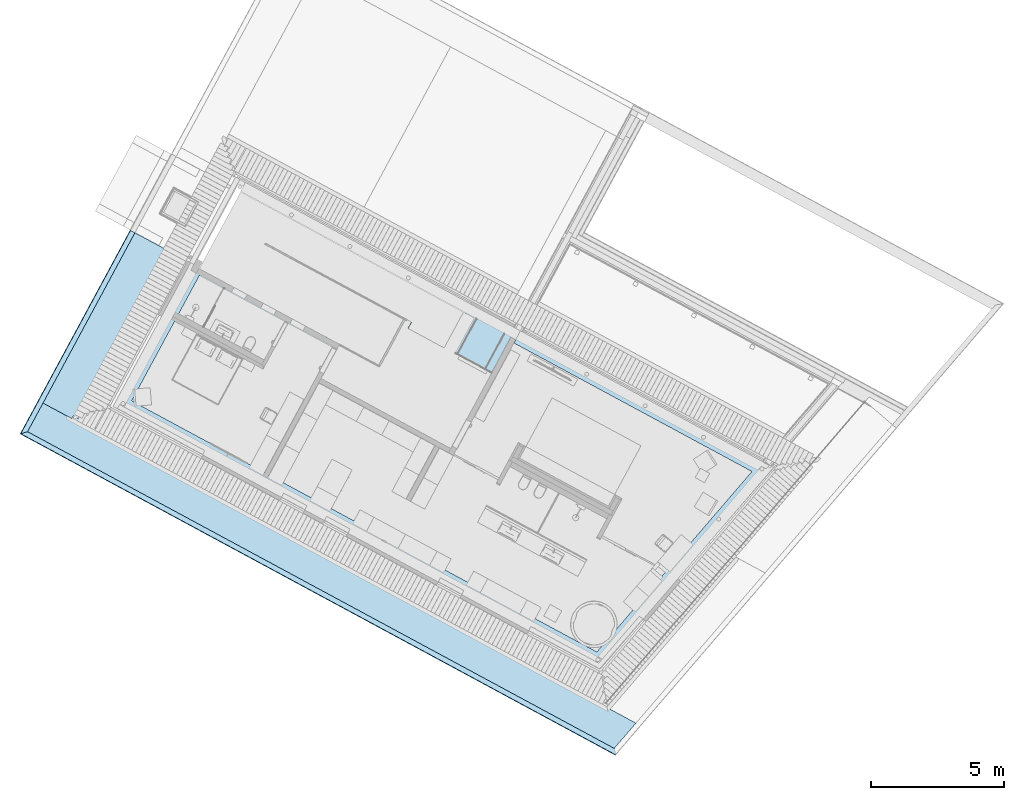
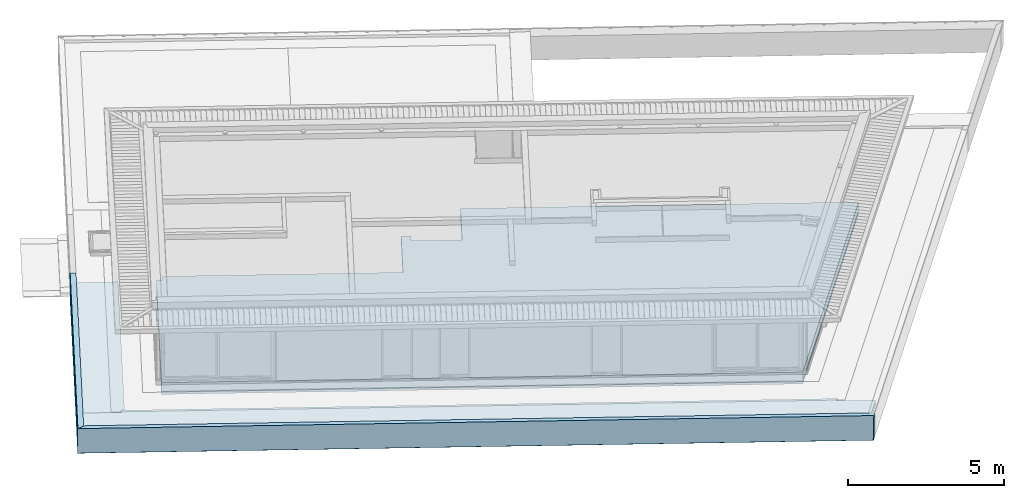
# One storey, part 1 of 48: 4 slabs.
"""IFC2X3 building model written with IfcOpenShell, lengths in metres."""

from ifc_helpers import new_model, entity, si_unit, converted_unit, derived_unit, money_unit, direction, frame, origin_with_axes, place, context, subcontext, project, spatial, faceted_brep, material, material_list, type_object, element, save


model = new_model("IFC2X3")

# Units and contexts
model_context = context("Model", 3, precision=1e-05, world=origin_with_axes(), true_north=direction((0.0, 1.0)))
body_context = subcontext(model_context, "Body", "Model", "MODEL_VIEW")
ifc_project = project(units=[si_unit("LENGTHUNIT", "METRE"), si_unit("AREAUNIT", "SQUARE_METRE"), si_unit("VOLUMEUNIT", "CUBIC_METRE"), converted_unit("PLANEANGLEUNIT", "DEGREE", entity("IfcPlaneAngleMeasure", 0.0174532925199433), si_unit("PLANEANGLEUNIT", "RADIAN"), dimensions=[0, 0, 0, 0, 0, 0, 0]), money_unit("EUR"), converted_unit("TIMEUNIT", "Year", entity("IfcTimeMeasure", 31556926.0), si_unit("TIMEUNIT", "SECOND"), dimensions=[0, 0, 1, 0, 0, 0, 0]), si_unit("MASSUNIT", "GRAM", prefix="KILO"), si_unit("THERMODYNAMICTEMPERATUREUNIT", "DEGREE_CELSIUS"), si_unit("LUMINOUSINTENSITYUNIT", "LUMEN"), si_unit("ENERGYUNIT", "JOULE", prefix="MEGA"), derived_unit("THERMALCONDUCTANCEUNIT", [(si_unit("POWERUNIT", "WATT"), 1), (si_unit("LENGTHUNIT", "METRE"), -1), (si_unit("THERMODYNAMICTEMPERATUREUNIT", "KELVIN"), -1)]), derived_unit("SPECIFICHEATCAPACITYUNIT", [(si_unit("ENERGYUNIT", "JOULE"), 1), (si_unit("MASSUNIT", "GRAM", prefix="KILO"), -1), (si_unit("THERMODYNAMICTEMPERATUREUNIT", "KELVIN"), -1)]), derived_unit("MASSDENSITYUNIT", [(si_unit("MASSUNIT", "GRAM", prefix="KILO"), 1), (si_unit("VOLUMEUNIT", "CUBIC_METRE"), -1)])], contexts=[model_context])

# Site, building, storey
site_placement = place(None, frame((-3.949935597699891, 1.740105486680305, 0.0), z_axis=(0.0, 0.0, 1.0), x_axis=(0.8799804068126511, -0.475009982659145, 0.0)))
site = spatial("IfcSite", under=ifc_project, at=site_placement, Name="Gelände", CompositionType="ELEMENT")
building_placement = place(site_placement, origin_with_axes())
building = spatial("IfcBuilding", under=site, at=building_placement, Name="Gebäude", CompositionType="ELEMENT")
storey_placement = place(building_placement, frame((0.0, 0.0, 4.55), z_axis=(0.0, 0.0, 1.0), x_axis=(1.0, 0.0, 0.0)))
storey = spatial("IfcBuildingStorey", under=building, at=storey_placement, Name="Staffelgeschoss", CompositionType="ELEMENT", Elevation=4.55)

# Slabs
ifc_material_1 = material(Name="_SIWH - Beton, Stahlbeton")
slab_type_1 = type_object("IfcSlabType", Name="_SIWH - Beton, Stahlbeton 120", PredefinedType="NOTDEFINED")
slab_1_placement = place(storey_placement, frame((5.397480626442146, 1.424987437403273, -0.5299999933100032), z_axis=(0.0, 0.0, 1.0), x_axis=(1.0, 0.0, 0.0)))
element("IfcSlab", 1, at=slab_1_placement, inside=storey, type_object=slab_type_1, material=ifc_material_1, Name="Decke013", PredefinedType="NOTDEFINED", context=body_context, shape_type="Brep", body=[
    faceted_brep([(0.3399999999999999, 5.928072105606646, -0.1200000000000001), (0.2000008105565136, 5.928072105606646, -0.1200000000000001), (0.2000008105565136, 5.928072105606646, 0.0), (0.3399999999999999, 5.928072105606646, 0.0), (0.0, 5.728046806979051, -0.1200000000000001), (0.2000008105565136, 5.728046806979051, -0.1200000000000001), (0.3399999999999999, 0.3399999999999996, -0.1200000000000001), (20.24488847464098, 0.3399999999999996, -0.1200000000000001), (22.15657666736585, 9.092813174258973, -0.1200000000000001), (11.97005269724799, 9.092813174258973, -0.1200000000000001), (11.96999633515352, 9.43281318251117, -0.1200000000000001), (22.57885044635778, 9.432813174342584, -0.1200000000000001), (20.51864452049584, 0.0, -0.1200000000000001), (0.0, 0.0, -0.1200000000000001), (0.2000008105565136, 5.728046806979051, 0.0), (0.0, 5.728046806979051, 0.0), (0.0, 0.0, 0.0), (20.51864452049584, 0.0, 0.0), (22.57885044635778, 9.432813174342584, 0.0), (11.96999633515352, 9.43281318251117, 0.0), (11.97005269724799, 9.092813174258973, 0.0), (22.15657666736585, 9.092813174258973, 0.0), (20.24488847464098, 0.3399999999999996, 0.0), (0.3399999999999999, 0.3399999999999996, 0.0)], [[[0, 1, 2, 3]], [[4, 5, 1, 0, 6, 7, 8, 9, 10, 11, 12, 13]], [[5, 14, 2, 1]], [[2, 14, 15, 16, 17, 18, 19, 20, 21, 22, 23, 3]], [[3, 23, 6, 0]], [[4, 15, 14, 5]], [[23, 22, 7, 6]], [[22, 21, 8, 7]], [[21, 20, 9, 8]], [[20, 19, 10, 9]], [[19, 18, 11, 10]], [[18, 17, 12, 11]], [[17, 16, 13, 12]], [[16, 15, 4, 13]]]),
])
slab_type_2 = type_object("IfcSlabType", Name="_SIWH - Beton, Stahlbeton 340", PredefinedType="NOTDEFINED")
slab_2_placement = place(storey_placement, frame((5.397480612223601, 7.353059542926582, -0.1899999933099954), z_axis=(0.0, 0.0, 1.0), x_axis=(1.0, 0.0, 0.0)))
element("IfcSlab", 2, at=slab_2_placement, inside=storey, type_object=slab_type_2, material=ifc_material_1, Name="Decke006", PredefinedType="NOTDEFINED", context=body_context, shape_type="Brep", body=[
    faceted_brep([(7.897529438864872, 0.0, 0.0), (7.897529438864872, 0.0, -0.339999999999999), (0.2000008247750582, 0.0, -0.339999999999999), (0.2000008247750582, 0.0, 0.0), (7.897532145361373, 2.024735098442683, -0.339999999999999), (7.897532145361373, 2.024735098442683, 0.0), (1.421854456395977e-08, -5.928072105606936, -0.339999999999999), (4.797620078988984e-10, -0.2000252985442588, -0.339999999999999), (0.2000008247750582, -0.2000252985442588, -0.339999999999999), (8.209847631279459, 2.024734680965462, -0.339999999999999), (8.209848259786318, 1.754735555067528, -0.339999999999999), (9.837858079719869, 1.754736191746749, -0.339999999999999), (9.837857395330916, 3.504741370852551, -0.339999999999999), (22.57885038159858, 3.504741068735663, -0.339999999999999), (20.51864453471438, -5.928072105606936, -0.339999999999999), (0.2000008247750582, -0.2000252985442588, 0.0), (4.797620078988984e-10, -0.2000252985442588, 0.0), (1.421854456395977e-08, -5.928072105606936, 0.0), (20.51864453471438, -5.928072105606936, 0.0), (22.57885038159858, 3.504741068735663, 0.0), (9.837857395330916, 3.504741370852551, 0.0), (9.837858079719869, 1.754736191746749, 0.0), (8.209848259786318, 1.754735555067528, 0.0), (8.209847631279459, 2.024734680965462, 0.0)], [[[0, 1, 2, 3]], [[4, 1, 0, 5]], [[6, 7, 8, 2, 1, 4, 9, 10, 11, 12, 13, 14]], [[2, 8, 15, 3]], [[0, 3, 15, 16, 17, 18, 19, 20, 21, 22, 23, 5]], [[9, 4, 5, 23]], [[6, 17, 16, 7]], [[8, 7, 16, 15]], [[10, 9, 23, 22]], [[11, 10, 22, 21]], [[12, 11, 21, 20]], [[13, 12, 20, 19]], [[14, 13, 19, 18]], [[6, 14, 18, 17]]]),
])
ifc_material_2 = material(Name="_SIWH - Metall, Aluminium")
ifc_material_3 = material(Name="_SIWH - Beton, Stahlbeton Fertigteil")
ifc_material_4 = material(Name="_SIWH - Dämmung, weich Mineralwolle")
ifc_material_list = material_list([ifc_material_2, ifc_material_3, ifc_material_1, ifc_material_4])
slab_type_3 = type_object("IfcSlabType", Name="_SIWH - Vordach+Arkade1 1555 x 980", PredefinedType="NOTDEFINED")
slab_3_placement = place(storey_placement, frame((4.182482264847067, 0.2249881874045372, -0.3999999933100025), z_axis=(0.0, 0.0, 1.0), x_axis=(4.032873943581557e-07, 0.9999999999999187, 0.0)))
element("IfcSlab", 3, at=slab_3_placement, inside=storey, type_object=slab_type_3, material=ifc_material_list, Name="Wand-024", PredefinedType="NOTDEFINED", context=body_context, shape_type="Brep", body=[
    faceted_brep([(-1.553000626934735, 1.555000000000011, 0.3724063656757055), (-1.553000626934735, 1.555000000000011, 0.394898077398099), (-1.550273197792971, 1.555000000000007, 0.3948980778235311), (-1.555000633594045, 1.555000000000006, 0.400000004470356), (7.168069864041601, 1.555000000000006, 0.3999999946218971), (7.168069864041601, 1.55500000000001, 0.3449999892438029), (-1.553000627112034, 1.555000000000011, 0.3449999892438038), (-1.553000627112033, 1.555000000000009, 0.3699875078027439), (-1.55300062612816, 1.55299999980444, 0.3724063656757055), (-1.55300062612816, 1.552999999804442, 0.3948980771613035), (-1.550273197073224, 1.55299999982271, 0.394898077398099), (-1.550273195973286, 1.550272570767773, 0.394898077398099), (-1.533135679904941, 1.533135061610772, 0.3764030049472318), (7.1680698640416, 1.533135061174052, 0.3764030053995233), (7.168069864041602, 1.493152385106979, 0.3744038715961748), (7.1680698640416, 1.493252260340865, 0.372406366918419), (7.168069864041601, 1.534048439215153, 0.3744461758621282), (7.168069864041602, 1.553000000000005, 0.3948980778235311), (7.168069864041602, 1.553000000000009, 0.3449999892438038), (-1.55300062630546, 1.55300000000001, 0.3449999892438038), (-1.553000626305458, 1.553000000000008, 0.3699875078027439), (-1.533135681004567, 1.535861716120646, 0.3764030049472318), (-1.493152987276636, 1.493152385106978, 0.374403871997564), (-1.493252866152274, 1.493252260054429, 0.3724063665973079), (-1.493153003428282, 1.533202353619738, 0.374403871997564), (-1.493999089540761, 1.534048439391, 0.3744461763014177)], [[[0, 1, 2, 3, 4, 5, 6, 7]], [[0, 8, 9, 1]], [[1, 9, 10, 2]], [[3, 2, 10, 11]], [[4, 3, 11, 12, 13]], [[5, 4, 13, 14, 15, 16, 17, 18]], [[6, 5, 18, 19]], [[7, 6, 19, 20]], [[8, 0, 7, 20]], [[9, 8, 20, 19, 18, 17, 10]], [[10, 21, 12, 11]], [[12, 22, 14, 13]], [[22, 23, 15, 14]], [[23, 24, 25, 16, 15]], [[17, 16, 25, 21, 10]], [[12, 21, 25, 24, 22]], [[24, 23, 22]]]),
    faceted_brep([(-1.345000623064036, 1.545000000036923, -0.5650000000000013), (-1.495000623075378, 1.545000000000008, -0.5649999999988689), (-1.495000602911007, 1.494999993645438, -0.5649999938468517), (-1.345000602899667, 1.494999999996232, -0.5649999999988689), (-1.500000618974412, 1.545000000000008, -0.5699999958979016), (-1.345000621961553, 1.54500000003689, -0.2000000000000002), (-1.345000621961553, 1.545000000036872, 1.11758868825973e-09), (-1.34500062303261, 1.545000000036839, 0.3449999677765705), (-1.345000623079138, 1.545000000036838, 0.3599875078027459), (-1.545000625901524, 1.545000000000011, 0.3699875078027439), (7.168069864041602, 1.545000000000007, 0.3699875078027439), (7.168069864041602, 1.545000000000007, -0.5700000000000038), (-1.510000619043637, 1.534999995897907, -0.5800000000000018), (-1.510000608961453, 1.509999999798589, -0.5800000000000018), (7.168069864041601, 1.510000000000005, -0.5800000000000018), (7.168069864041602, 1.49500000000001, -0.5650000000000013), (-1.345000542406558, 1.344999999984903, -0.5649999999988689), (-1.345000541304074, 1.34499999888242, -0.2000000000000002), (-1.345000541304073, 1.344999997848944, 1.11758868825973e-09), (-1.345000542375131, 1.344999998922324, 0.3449999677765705), (-1.345000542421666, 1.345000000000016, 0.3599875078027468), (7.168069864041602, 1.345000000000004, 0.3599875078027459), (7.1680698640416, 1.344999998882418, 1.11758868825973e-09), (7.1680698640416, 1.344999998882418, -0.2000000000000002), (7.168069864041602, 1.345000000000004, -0.5700000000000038), (7.168069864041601, 1.355000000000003, -0.5800000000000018), (7.1680698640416, 1.480000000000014, -0.5800000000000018), (7.168069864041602, 1.535000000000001, -0.5800000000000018), (-1.355000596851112, 1.479999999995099, -0.5800000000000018), (-1.34500060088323, 1.489999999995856, -0.5699999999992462), (-1.345000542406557, 1.344999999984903, -0.5699999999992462), (-1.35500054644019, 1.354999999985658, -0.5800000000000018)], [[[0, 1, 2, 3]], [[4, 1, 0, 5, 6, 7, 8, 9, 10, 11]], [[1, 4, 12, 13, 2]], [[2, 13, 14, 15, 3]], [[5, 0, 3, 16, 17]], [[6, 5, 17, 18]], [[7, 6, 18, 19]], [[8, 7, 19, 20]], [[9, 8, 20]], [[10, 9, 20, 21]], [[11, 10, 21, 22, 23, 24, 25, 26, 15, 14, 27]], [[4, 11, 27, 12]], [[13, 12, 27, 14]], [[28, 29, 3, 15, 26]], [[3, 29, 30, 16]], [[16, 30, 24, 23, 17]], [[18, 17, 23, 22]], [[19, 18, 22, 21, 20]], [[30, 31, 25, 24]], [[31, 28, 26, 25]], [[28, 31, 30, 29]]]),
    faceted_brep([(-0.1200005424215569, 1.344999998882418, 1.11758868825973e-09), (-0.1200000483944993, 0.1200000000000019, 1.11758868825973e-09), (7.1680698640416, 0.120000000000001, 1.11758868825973e-09), (7.1680698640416, 1.344999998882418, 1.11758868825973e-09), (-0.1200000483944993, 0.1200000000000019, -0.1999999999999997), (-0.1200005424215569, 1.344999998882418, -0.1999999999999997), (7.1680698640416, 0.120000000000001, -0.1999999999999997), (7.1680698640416, 1.344999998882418, -0.2000000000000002)], [[[0, 1, 2, 3]], [[4, 1, 0, 5]], [[1, 4, 6, 2]], [[2, 6, 7, 3]], [[5, 0, 3, 7]], [[4, 5, 7, 6]]]),
    faceted_brep([(-4.839448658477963e-08, 0.119999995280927, 5.496263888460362e-09), (0.0, 0.0, 5.496263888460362e-09), (7.168069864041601, 0.0, 5.496263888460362e-09), (7.1680698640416, 0.1199999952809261, 5.496263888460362e-09), (0.0, 0.0, -0.1999999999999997), (-4.839448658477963e-08, 0.1199999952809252, -0.1999999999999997), (7.168069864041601, 0.0, -0.1999999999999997), (7.1680698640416, 0.1199999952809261, -0.1999999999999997)], [[[0, 1, 2, 3]], [[4, 1, 0, 5]], [[1, 4, 6, 2]], [[7, 3, 2, 6]], [[5, 0, 3, 7]], [[4, 5, 7, 6]]]),
])
slab_4_placement = place(storey_placement, frame((26.86187143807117, 0.2249881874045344, -0.3999999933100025), z_axis=(0.0, 0.0, 1.0), x_axis=(-1.0, 0.0, 0.0)))
element("IfcSlab", 4, at=slab_4_placement, inside=storey, type_object=slab_type_3, material=ifc_material_list, Name="Wand-024", PredefinedType="NOTDEFINED", context=body_context, shape_type="Brep", body=[
    faceted_brep([(24.21343823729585, 1.534048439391, 0.3744461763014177), (24.17264203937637, 1.493252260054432, 0.3724063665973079), (-1.202314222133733, 1.49325226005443, 0.3724063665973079), (-1.235161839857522, 1.534048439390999, 0.3744461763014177), (24.2125919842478, 1.493152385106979, 0.374403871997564), (24.21343822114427, 1.493998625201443, 0.3744461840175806), (-1.243227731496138, 1.493152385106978, 0.374403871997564), (-1.243909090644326, 1.49399862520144, 0.3744461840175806), (24.23238979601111, 1.55299999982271, 0.394898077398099), (-1.25042099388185, 1.552999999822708, 0.394898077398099), (24.21525150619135, 1.533135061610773, 0.3764030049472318), (24.23238979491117, 1.550272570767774, 0.394898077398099), (-1.237217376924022, 1.533135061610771, 0.3764030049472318), (-1.251016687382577, 1.550272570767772, 0.394898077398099), (24.23438979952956, 1.55299999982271, 0.394898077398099), (-1.252468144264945, 1.552999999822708, 0.394898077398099), (-1.252468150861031, 1.553000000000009, 0.3449999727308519), (24.23438980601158, 1.55300000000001, 0.3449999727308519), (24.23438979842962, 1.550272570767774, 0.394898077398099), (24.23438980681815, 1.555000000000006, 0.400000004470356), (-1.252031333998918, 1.555000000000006, 0.400000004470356), (-1.253063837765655, 1.550272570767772, 0.394898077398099), (-1.252031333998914, 1.555000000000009, 0.3449999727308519), (24.23438980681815, 1.55500000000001, 0.3449999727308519)], [[[0, 1, 2, 3]], [[4, 1, 0, 5]], [[1, 4, 6, 2]], [[6, 7, 3, 2]], [[8, 0, 3, 9]], [[10, 5, 0, 8, 11]], [[5, 10, 12, 7, 6, 4]], [[12, 13, 9, 3, 7]], [[14, 8, 9, 15, 16, 17]], [[11, 8, 14, 18]], [[10, 11, 18, 19, 20, 21, 13, 12]], [[9, 13, 21, 15]], [[15, 21, 20, 22, 16]], [[22, 23, 17, 16]], [[18, 14, 17, 23, 19]], [[20, 19, 23, 22]]]),
    faceted_brep([(24.15938977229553, 1.479999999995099, -0.5800000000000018), (24.1593897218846, 1.354999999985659, -0.5800000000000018), (-1.218945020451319, 1.354999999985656, -0.5800000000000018), (-1.191643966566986, 1.479999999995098, -0.5800000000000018), (24.16938971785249, 1.344999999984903, -0.5699999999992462), (24.17438978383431, 1.494999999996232, -0.5649999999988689), (24.17438972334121, 1.344999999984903, -0.5649999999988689), (-1.231364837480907, 1.344999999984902, -0.5699999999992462), (-1.236482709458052, 1.344999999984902, -0.5649999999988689), (-1.203721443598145, 1.494999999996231, -0.5649999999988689), (24.22438977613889, 1.494999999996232, -0.5649999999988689), (24.22438971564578, 1.344999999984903, -0.5649999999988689), (24.22438973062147, 1.34499999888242, -0.2000000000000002), (-1.287661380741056, 1.344999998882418, -0.2000000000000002), (-1.287661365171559, 1.344999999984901, -0.5649999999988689), (-1.254900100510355, 1.494999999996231, -0.5649999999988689), (-1.253808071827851, 1.500000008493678, -0.5700000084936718), (-1.241388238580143, 1.510000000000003, -0.5800000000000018), (24.21438977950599, 1.510000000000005, -0.5800000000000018), (24.22438979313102, 1.50000000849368, -0.5700000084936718), (24.22438981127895, 1.545000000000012, -0.5700000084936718), (24.22438982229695, 1.54500000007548, 0.3449999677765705), (24.22438974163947, 1.344999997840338, 0.3449999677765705), (24.22438973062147, 1.34499999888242, 1.11758868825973e-09), (-1.287661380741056, 1.344999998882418, 1.11758868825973e-09), (-1.287661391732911, 1.345000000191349, 0.3449999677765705), (-1.243979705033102, 1.545000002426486, 0.3449999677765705), (-1.243979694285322, 1.545000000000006, -0.5700000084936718), (-1.235928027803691, 1.535000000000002, -0.5800000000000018), (24.21438978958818, 1.535000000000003, -0.5800000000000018), (24.22438979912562, 1.54500000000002, 0.3699875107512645), (-1.243979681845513, 1.545000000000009, 0.3699875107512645), (24.22438974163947, 1.345000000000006, 0.3599875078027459), (-1.287661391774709, 1.345000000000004, 0.3599875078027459)], [[[0, 1, 2, 3]], [[4, 1, 0, 5, 6]], [[1, 4, 7, 2]], [[7, 8, 9, 3, 2]], [[5, 0, 3, 9]], [[6, 5, 10, 11]], [[4, 6, 11, 12, 13, 14, 8, 7]], [[9, 8, 14, 15]], [[10, 5, 9, 15, 16, 17, 18, 19]], [[11, 10, 19, 20, 21, 22, 23, 12]], [[13, 12, 23, 24]], [[15, 14, 13, 24, 25, 26, 27, 16]], [[28, 17, 16, 27]], [[28, 29, 18, 17]], [[20, 19, 18, 29]], [[30, 21, 20, 27, 26, 31]], [[30, 32, 22, 21]], [[22, 32, 33, 25, 24, 23]], [[25, 33, 31, 26]], [[27, 20, 29, 28]], [[32, 30, 31, 33]]]),
    faceted_brep([(24.02438922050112, 0.1200000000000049, -0.2000000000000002), (24.02438922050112, 0.1200000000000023, 1.11758868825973e-09), (-1.35049703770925, 0.120000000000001, 1.11758868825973e-09), (-1.35049703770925, 0.1200000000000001, -0.2000000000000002), (24.02438971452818, 1.344999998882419, 1.11758868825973e-09), (24.02438971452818, 1.344999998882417, -0.2000000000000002), (-1.082946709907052, 1.344999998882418, 1.11758868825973e-09), (-1.082946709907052, 1.344999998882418, -0.2000000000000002)], [[[0, 1, 2, 3]], [[4, 1, 0, 5]], [[1, 4, 6, 2]], [[3, 2, 6, 7]], [[5, 0, 3, 7]], [[4, 5, 7, 6]]]),
    faceted_brep([(22.79938917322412, 0.0, -0.1999999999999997), (22.79938917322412, 0.0, 1.11758868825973e-09), (-0.1228287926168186, 0.0, 1.11758868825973e-09), (-0.1228287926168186, 0.0, -0.1999999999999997), (22.7993892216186, 0.1199999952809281, 1.11758868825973e-09), (22.7993892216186, 0.1199999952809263, -0.1999999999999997), (-0.0966197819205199, 0.1199999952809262, 1.11758868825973e-09), (-0.0966197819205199, 0.1199999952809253, -0.1999999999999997)], [[[0, 1, 2, 3]], [[4, 1, 0, 5]], [[1, 4, 6, 2]], [[3, 2, 6, 7]], [[5, 0, 3, 7]], [[4, 5, 7, 6]]]),
])

save(model, "model.ifc")
